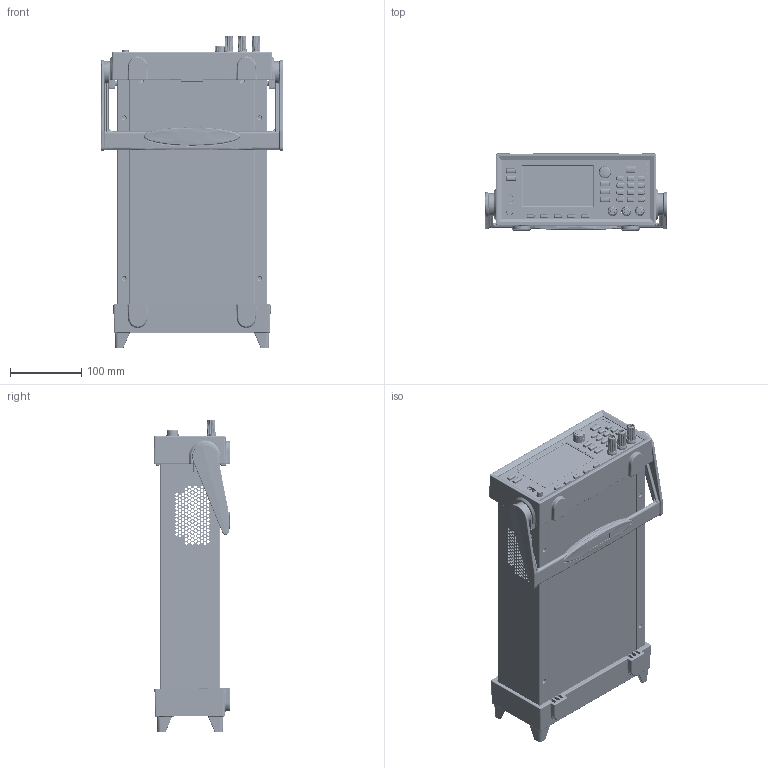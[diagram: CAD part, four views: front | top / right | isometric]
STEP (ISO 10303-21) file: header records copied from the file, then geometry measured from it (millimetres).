
FILE_DESCRIPTION((''),'2;1');
FILE_NAME('2281S_ASM','2022-11-18T13:14:39',('u607888'),(''),'CREO PARAMETRIC BY PTC INC, 2019080','CREO PARAMETRIC BY PTC INC, 2019080','');
FILE_SCHEMA(('CONFIG_CONTROL_DESIGN','SHAPE_APPEARANCE_LAYERS_GROUPS'));
Length unit declared in the file: inch
Products named in the file (61): CHASSIS_BASE_ZEU; S-632-2; PEM-BS-632-2_1; XK-NFH-M5-15; TF-BTM-PLATE-SPRING-WASHER-PSD; PLAIN-WASHER-TF-PSD; XK-HEX-NUT-M5-PSD; XK-BSO-632-371; SCREW_FH_6-32X250_TX10_LIB; SO-632-10; MODULE_MAINCHASSIS_ZEU_ASM; MH315C157; SCREW_PH_6-32X250_TX15_ST_LIB; 131917600; MODULE_ANALOGE_BD_20_6_PSD_ASM; BKT_FRONT_CASE_PSD; BSOS-440-26; SO-440-8; XK-SO-256-312; BSOS-632-16; MODULE_BKT_FRONT_CASE_PSD_ASM; CHASSIS_REAR_ZEU; FHS-632-5; MODULE_REARCHASSIS_ZEU_ASM; CONN_GPIB_HOUSING_TBL; CONN_1X4_USB_TH_F_RA_B_LIB; TRANSFORMER_RJ45_EMI_LIB; CONN_9_DSUB_TH_F_RA_LIB; MODULE_PCBA_DIGITAL_BOARD_HRA_ASM; LABEL_REAR_PANEL_PWS_PSD; FRONT_CASE_HRA; 260-FNGR260X233; 260SW4SPOKE200; SWITCH_EMAT_LND_NONLED_TBL; 150037800; KNOB_685_SOLID_PSD; MODULE_FRONT_PANEL_BOARD_HRA_ASM; KEYPAD_FRONTPANEL_HRA; PWS-FRONT-LABEL; GLASS-43INCH-AUO-PAD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
Assembly tree (151 placements, depth 4):
  2281S_ASM
    MODULE_MAINCHASSIS_ZEU_ASM
      CHASSIS_BASE_ZEU
      S-632-2  x13
      PEM-BS-632-2_1  x2
      XK-NFH-M5-15  x6
      TF-BTM-PLATE-SPRING-WASHER-PSD  x6
      PLAIN-WASHER-TF-PSD  x6
      XK-HEX-NUT-M5-PSD  x6
      XK-BSO-632-371
      SCREW_FH_6-32X250_TX10_LIB  x4
      SO-632-10  x4
    MODULE_ANALOGE_BD_20_6_PSD_ASM
      MH315C157  x5
      SCREW_PH_6-32X250_TX15_ST_LIB  x4
      131917600
    MODULE_BKT_FRONT_CASE_PSD_ASM
      BKT_FRONT_CASE_PSD
      S-632-2  x7
      BSOS-440-26  x2
      SO-440-8  x2
      XK-SO-256-312  x5
      BSOS-632-16  x2
    MODULE_REARCHASSIS_ZEU_ASM
      CHASSIS_REAR_ZEU
      S-632-2  x4
      PEM-BS-632-2_1
      FHS-632-5
    MODULE_PCBA_DIGITAL_BOARD_HRA_ASM
      CONN_GPIB_HOUSING_TBL
      CONN_1X4_USB_TH_F_RA_B_LIB
      TRANSFORMER_RJ45_EMI_LIB
      CONN_9_DSUB_TH_F_RA_LIB
    LABEL_REAR_PANEL_PWS_PSD
    MODULE_FRONT_CASE_HRA_ASM
      FRONT_CASE_HRA
      MODULE_FRONT_PANEL_BOARD_HRA_ASM
        260-FNGR260X233  x5
        260SW4SPOKE200  x12
        SWITCH_EMAT_LND_NONLED_TBL  x6
        150037800  x6
        KNOB_685_SOLID_PSD
      KEYPAD_FRONTPANEL_HRA
      PWS-FRONT-LABEL
      MODULE_DISPLAY_AUO_PSD_ASM
        GLASS-43INCH-AUO-PAD
    MODULE_FILTER_BOARD_3K_ZEU_ASM
      131897000
      131897100
      131897200
    MODULE_AC_MAIN_PSD_ASM
      CONN_1X4_USB_TH_F_RA_LIB
      SWITCH-BUTTON-PSD
    CHASSIS_ENCLOSURE
    2450-309
    2450-310
    EAR_MOUNT_RIGHT_PSD
    EAR_MOUNT_LEFT_PSD
    2450-329  x2
    2450-331_ASM
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Bounding box: 255.27 x 107.65 x 438.29 mm (x, y, z)
Volume: 1041115.2 mm3; surface area: 1032410.8 mm2
Topology: 113 solids, 147 shells, 16189 faces, 43010 edges, 27464 vertices
Faces by surface type: plane 7747, cylinder 4484, bspline 1642, cone 1142, extrusion 499, torus 381, sphere 278, revolution 16
Entity records: 690514 total; most frequent: CARTESIAN_POINT 192801, ORIENTED_EDGE 78418, DIRECTION 69852, EDGE_CURVE 39351, PRESENTATION_STYLE_ASSIGNMENT 35148, STYLED_ITEM 34688, CURVE_STYLE 27957, VERTEX_POINT 25080
